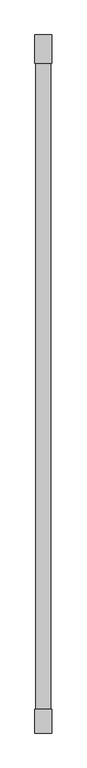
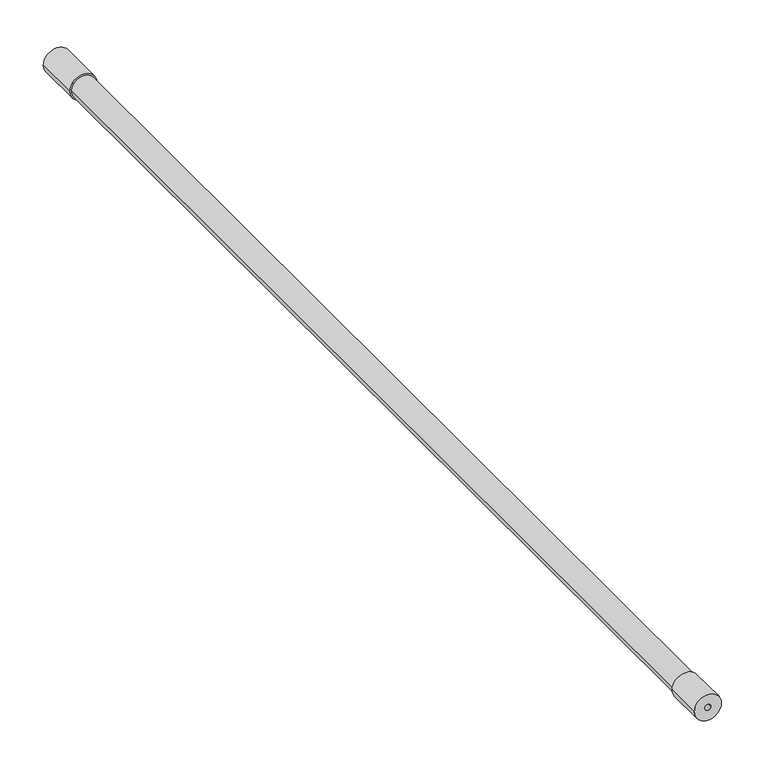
"""IFC4 building model written with IfcOpenShell, lengths in millimetres: proxy geometry, КНС_ШтангаИзоляционная_DKC : NF1500_Стеклопластик_1500 мм."""

import ifcopenshell
import ifcopenshell.guid

model = None  # the IFC model being written
_history = None  # IfcOwnerHistory: only IFC2X3 demands one
_inside = {}  # id of a spatial element -> (the spatial element, [elements in it])
_under = {}  # id of a project, library or spatial element -> (it, [spatial elements below it])
_declared = {}  # id of a project -> (the project, [libraries it declares])
_typed = {}  # id of a type object -> (the type object, [elements of that type])
_made_of = {}  # id of a material, layer set ... -> (it, [elements and type objects made of it])


def new_model(schema):
    """Start an empty IFC model of exactly this schema.

    Asked for "IFC4X3", IfcOpenShell would pick the latest addendum, in which some entities
    have other attributes; the version numbers below select the first issue.
    IFC2X3 requires an IfcOwnerHistory on every rooted entity: one is made here for all.
    """
    global model, _history
    if schema == "IFC4X3":
        model = ifcopenshell.file(schema_version=(4, 3, 0, 0))
    else:
        model = ifcopenshell.file(schema=schema)
    _inside.clear()
    _under.clear()
    _declared.clear()
    _typed.clear()
    _made_of.clear()
    _history = None
    if model.schema == "IFC2X3":
        org = make("IfcOrganization", Name="unknown")
        user = make(
            "IfcPersonAndOrganization",
            ThePerson=make("IfcPerson", FamilyName="unknown"),
            TheOrganization=org,
        )
        app = make(
            "IfcApplication",
            ApplicationDeveloper=org,
            Version="unknown",
            ApplicationFullName="unknown",
            ApplicationIdentifier="unknown",
        )
        _history = make(
            "IfcOwnerHistory",
            OwningUser=user,
            OwningApplication=app,
            ChangeAction="ADDED",
            CreationDate=0,
        )
    return model


def make(cls, **values):
    """One entity of the class cls with the attributes given. An attribute that is None is left unset."""
    return model.create_entity(
        cls, **{name: value for name, value in values.items() if value is not None}
    )


def rooted(cls, **values):
    """An entity with a GlobalId (a new one), such as an element, a storey or a relation."""
    return make(cls, GlobalId=ifcopenshell.guid.new(), OwnerHistory=_history, **values)


def si_unit(unit_type, name, prefix=None):
    """IfcSIUnit, for example si_unit("LENGTHUNIT", "METRE", prefix="MILLI")."""
    return make("IfcSIUnit", UnitType=unit_type, Prefix=prefix, Name=name)


def assignment(units):
    """IfcUnitAssignment: the units of a project."""
    return None if units is None else make("IfcUnitAssignment", Units=units)


def point(xyz):
    """IfcCartesianPoint."""
    return None if xyz is None else make("IfcCartesianPoint", Coordinates=xyz)


def direction(xyz):
    """IfcDirection."""
    return None if xyz is None else make("IfcDirection", DirectionRatios=xyz)


def frame(location, z_axis=None, x_axis=None):
    """IfcAxis2Placement3D, a coordinate frame: its origin and axes. An axis left out is left unset."""
    return make(
        "IfcAxis2Placement3D",
        Location=point(location),
        Axis=direction(z_axis),
        RefDirection=direction(x_axis),
    )


def frame_2d(location, x_axis=None):
    """IfcAxis2Placement2D, a coordinate frame in the plane: its origin and x axis."""
    return make(
        "IfcAxis2Placement2D", Location=point(location), RefDirection=direction(x_axis)
    )


def origin():
    """The frame at (0, 0, 0) with its axes left unset."""
    return frame((0.0, 0.0, 0.0))


def origin_2d():
    """The frame at (0, 0) in the plane with its x axis left unset."""
    return frame_2d((0.0, 0.0))


def place(relative_to, where):
    """IfcLocalPlacement: puts the frame where relative to a parent placement (None: the world)."""
    return make(
        "IfcLocalPlacement", PlacementRelTo=relative_to, RelativePlacement=where
    )


def context(
    kind, dimensions, precision=None, world=None, true_north=None, identifier=None
):
    """IfcGeometricRepresentationContext, for example the 3D "Model" context."""
    return make(
        "IfcGeometricRepresentationContext",
        ContextIdentifier=identifier,
        ContextType=kind,
        CoordinateSpaceDimension=dimensions,
        Precision=precision,
        WorldCoordinateSystem=world,
        TrueNorth=true_north,
    )


def project(units=None, contexts=None):
    """IfcProject with its units and contexts."""
    return rooted(
        "IfcProject",
        Name="project",
        RepresentationContexts=contexts,
        UnitsInContext=assignment(units),
    )


def spatial(cls, under=None, at=None, **own):
    """A site, building, storey or space (cls), placed at a placement, below another one or the project."""
    s = rooted(cls, ObjectPlacement=at, **own)
    if under is not None:
        _under.setdefault(under.id(), (under, []))[1].append(s)
    return s


def circle_curve(where, radius):
    """IfcCircle in the frame where."""
    return make("IfcCircle", Position=where, Radius=radius)


def trimmed(basis, trim1, trim2, sense, master):
    """IfcTrimmedCurve: the piece of a basis curve between two trims."""
    return make(
        "IfcTrimmedCurve",
        BasisCurve=basis,
        Trim1=trim1,
        Trim2=trim2,
        SenseAgreement=sense,
        MasterRepresentation=master,
    )


def segment(curve, same_sense, transition):
    """IfcCompositeCurveSegment."""
    return make(
        "IfcCompositeCurveSegment",
        Transition=transition,
        SameSense=same_sense,
        ParentCurve=curve,
    )


def composite_curve(segments, self_intersect=None):
    """IfcCompositeCurve: segments joined end to end."""
    return make("IfcCompositeCurve", Segments=segments, SelfIntersect=self_intersect)


def outline(outer, holes=None, kind="AREA"):
    """IfcArbitraryClosedProfileDef: a profile drawn as a closed curve; with holes, ...WithVoids."""
    if holes is None:
        return make("IfcArbitraryClosedProfileDef", ProfileType=kind, OuterCurve=outer)
    return make(
        "IfcArbitraryProfileDefWithVoids",
        ProfileType=kind,
        OuterCurve=outer,
        InnerCurves=holes,
    )


def extrude(swept, where, along, depth):
    """IfcExtrudedAreaSolid: the profile swept, set in the frame where, extruded along a direction by depth."""
    return make(
        "IfcExtrudedAreaSolid",
        SweptArea=swept,
        Position=where,
        ExtrudedDirection=direction(along),
        Depth=depth,
    )


def shape(context_of_items, identifier, shape_type, items):
    """IfcShapeRepresentation: the items that make up one representation, for example the "Body"."""
    return make(
        "IfcShapeRepresentation",
        ContextOfItems=context_of_items,
        RepresentationIdentifier=identifier,
        RepresentationType=shape_type,
        Items=items,
    )


def source(mapping_origin, context_of_items, identifier, shape_type, items):
    """IfcRepresentationMap: a shape defined once, which mapped items show again and again."""
    return make(
        "IfcRepresentationMap",
        MappingOrigin=mapping_origin,
        MappedRepresentation=shape(context_of_items, identifier, shape_type, items),
    )


def transform(
    local_origin,
    x_axis=None,
    y_axis=None,
    z_axis=None,
    scale=None,
    scale2=None,
    scale3=None,
    uniform=True,
):
    """IfcCartesianTransformationOperator3D, or its non-uniform kind. x_axis, y_axis, z_axis: its Axis1, 2, 3."""
    if uniform:
        return make(
            "IfcCartesianTransformationOperator3D",
            Axis1=direction(x_axis),
            Axis2=direction(y_axis),
            LocalOrigin=point(local_origin),
            Scale=scale,
            Axis3=direction(z_axis),
        )
    return make(
        "IfcCartesianTransformationOperator3DnonUniform",
        Axis1=direction(x_axis),
        Axis2=direction(y_axis),
        LocalOrigin=point(local_origin),
        Scale=scale,
        Axis3=direction(z_axis),
        Scale2=scale2,
        Scale3=scale3,
    )


def mapped(mapping_source, mapping_target):
    """IfcMappedItem: shows the shape of a source again, moved by a transform."""
    return make(
        "IfcMappedItem", MappingSource=mapping_source, MappingTarget=mapping_target
    )


def made_of(thing, what):
    """Note that an element or type object is made of a material, layer set ...; save() writes the relation."""
    if what is not None:
        _made_of.setdefault(what.id(), (what, []))[1].append(thing)
    return thing


def element(
    cls,
    number,
    at=None,
    inside=None,
    cuts=None,
    type_object=None,
    material=None,
    context=None,
    identifier="Body",
    shape_type=None,
    held_by="IfcProductDefinitionShape",
    body=None,
    shapes=None,
    **own,
):
    """One element of the class cls, such as IfcWall. Its Tag is "e" and its number.

    at: its placement. inside: the storey or other place that contains it. cuts: it is an
    opening in that element (IfcRelVoidsElement). A single representation is given by context,
    identifier, shape_type and body (its items); several are given by shapes. held_by: the class
    of the entity that holds the representations. save() writes the other relations.
    """
    e = rooted(cls, Tag="e%d" % number, ObjectPlacement=at, **own)
    if body is not None:
        shapes = [shape(context, identifier, shape_type, body)]
    if shapes is not None:
        e.Representation = make(held_by, Representations=shapes)
    if inside is not None:
        _inside.setdefault(inside.id(), (inside, []))[1].append(e)
    if cuts is not None:
        rooted(
            "IfcRelVoidsElement", RelatingBuildingElement=cuts, RelatedOpeningElement=e
        )
    if type_object is not None:
        _typed.setdefault(type_object.id(), (type_object, []))[1].append(e)
    return made_of(e, material)


def aggregate(whole, parts):
    """IfcRelAggregates: a whole, such as a stair, and the parts it consists of."""
    return rooted("IfcRelAggregates", RelatingObject=whole, RelatedObjects=parts)


def save(model, path):
    """Write the relations noted so far, then the file.

    IfcRelAggregates (storeys below a building ...), IfcRelContainedInSpatialStructure (elements
    in a storey), IfcRelDefinesByType, IfcRelAssociatesMaterial and IfcRelDeclares: one each for
    every whole, place, type object, material and project.
    """
    for whole, parts in _under.values():
        aggregate(whole, parts)
    for where, things in _inside.values():
        rooted(
            "IfcRelContainedInSpatialStructure",
            RelatedElements=things,
            RelatingStructure=where,
        )
    for kind, things in _typed.values():
        rooted("IfcRelDefinesByType", RelatedObjects=things, RelatingType=kind)
    for what, things in _made_of.values():
        rooted("IfcRelAssociatesMaterial", RelatedObjects=things, RelatingMaterial=what)
    for by, libraries in _declared.values():
        rooted("IfcRelDeclares", RelatingContext=by, RelatedDefinitions=libraries)
    model.write(path)


def security_devices_bb690567(model_context):
    return source(origin(), model_context, "Body", "SweptSolid", [
        extrude(outline(composite_curve([segment(trimmed(circle_curve(origin_2d(), 18.0), [point((0.0, -18.0))], [point((0.0, 18.0))], False, "CARTESIAN"), True, "CONTINUOUS"), segment(trimmed(circle_curve(origin_2d(), 18.0), [point((0.0, 18.0))], [point((0.0, -18.0))], False, "CARTESIAN"), True, "CONTINUOUS")], self_intersect=False), holes=[composite_curve([segment(trimmed(circle_curve(origin_2d(), 4.0), [point((0.0, -4.0))], [point((0.0, 4.0))], True, "CARTESIAN"), True, "CONTINUOUS"), segment(trimmed(circle_curve(origin_2d(), 4.0), [point((0.0, 4.0))], [point((0.0, -4.0))], True, "CARTESIAN"), True, "CONTINUOUS")], self_intersect=False)]), frame((0.0, 1439.0, 0.0), z_axis=(0.0, 1.0, 0.0), x_axis=(0.0, 0.0, 1.0)), (0.0, 0.0, 1.0), 61.0),
        extrude(outline(composite_curve([segment(trimmed(circle_curve(origin_2d(), 16.0), [point((0.0, -16.0))], [point((0.0, 16.0))], False, "CARTESIAN"), True, "CONTINUOUS"), segment(trimmed(circle_curve(origin_2d(), 16.0), [point((0.0, 16.0))], [point((0.0, -16.0))], False, "CARTESIAN"), True, "CONTINUOUS")], self_intersect=False)), frame((0.0, 51.0, 0.0), z_axis=(0.0, 1.0, 0.0), x_axis=(0.0, 0.0, 1.0)), (0.0, 0.0, 1.0), 1388.0),
        extrude(outline(composite_curve([segment(trimmed(circle_curve(origin_2d(), 18.0), [point((0.0, -18.0))], [point((0.0, 18.0))], False, "CARTESIAN"), True, "CONTINUOUS"), segment(trimmed(circle_curve(origin_2d(), 18.0), [point((0.0, 18.0))], [point((0.0, -18.0))], False, "CARTESIAN"), True, "CONTINUOUS")], self_intersect=False), holes=[composite_curve([segment(trimmed(circle_curve(origin_2d(), 4.0), [point((0.0, -4.0))], [point((0.0, 4.0))], True, "CARTESIAN"), True, "CONTINUOUS"), segment(trimmed(circle_curve(origin_2d(), 4.0), [point((0.0, 4.0))], [point((0.0, -4.0))], True, "CARTESIAN"), True, "CONTINUOUS")], self_intersect=False)]), frame((0.0, 0.0, 0.0), z_axis=(0.0, 1.0, 0.0), x_axis=(0.0, 0.0, 1.0)), (0.0, 0.0, 1.0), 51.0),
    ])


if __name__ == "__main__":
    model = new_model("IFC4")
    model_context = context("Model", 3, world=origin())
    ifc_project = project(units=[si_unit("LENGTHUNIT", "METRE", prefix="MILLI")], contexts=[model_context])
    site = spatial("IfcSite", under=ifc_project)
    building = spatial("IfcBuilding", under=site)
    placement = place(None, origin())
    security_devices_shape = security_devices_bb690567(model_context)
    element("IfcBuildingElementProxy", 1, Name="КНС_ШтангаИзоляционная_DKC : NF1500_Стеклопластик_1500 мм", ObjectType="КНС_ШтангаИзоляционная_DKC : NF1500_Стеклопластик_1500 мм", at=placement, inside=building, context=model_context, shape_type="MappedRepresentation", body=[
        mapped(security_devices_shape, transform((0.0, 0.0, 0.0), x_axis=(1.0, 0.0, 0.0), y_axis=(0.0, 1.0, 0.0), z_axis=(0.0, 0.0, 1.0))),
    ])
    save(model, "model.ifc")
